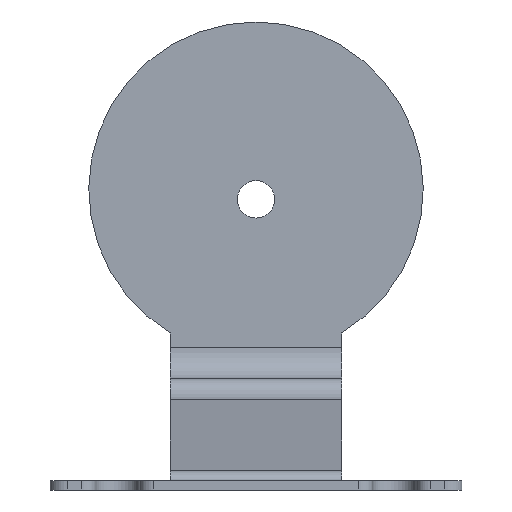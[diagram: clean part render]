
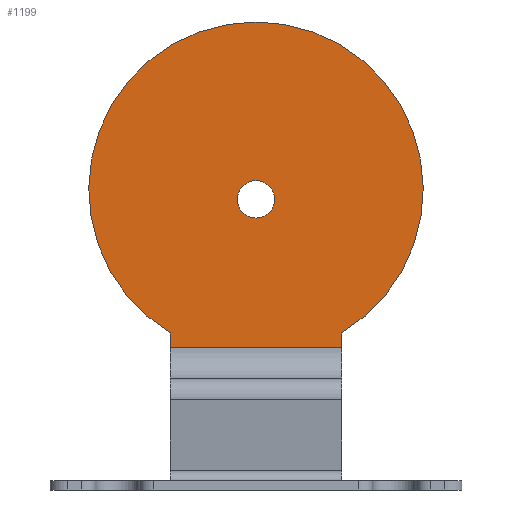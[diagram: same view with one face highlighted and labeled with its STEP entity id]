
A CAD part, front view. The second image highlights one B-rep face of the part: STEP entity #1199.
In plain terms, the highlighted planar face has unit normal (0, -1, 0).
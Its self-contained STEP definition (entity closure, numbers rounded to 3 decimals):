
#42 = ORIENTED_EDGE ( 'NONE', *, *, #787, .T. ) ;
#85 = EDGE_LOOP ( 'NONE', ( #42, #2003, #1810, #2027, #878 ) ) ;
#180 = VERTEX_POINT ( 'NONE', #1169 ) ;
#211 = EDGE_LOOP ( 'NONE', ( #918, #2040 ) ) ;
#228 = EDGE_CURVE ( 'NONE', #2092, #180, #1436, .T. ) ;
#298 = CIRCLE ( 'NONE', #299, 53.75 ) ;
#299 = AXIS2_PLACEMENT_3D ( 'NONE', #300, #304, #305 ) ;
#300 = CARTESIAN_POINT ( 'NONE',  ( 60.5, 62.3, 96.65 ) ) ;
#304 = DIRECTION ( 'NONE',  ( 0., -1., 0. ) ) ;
#305 = DIRECTION ( 'NONE',  ( 0., 0., 1. ) ) ;
#523 = CIRCLE ( 'NONE', #524, 6. ) ;
#524 = AXIS2_PLACEMENT_3D ( 'NONE', #525, #526, #527 ) ;
#525 = CARTESIAN_POINT ( 'NONE',  ( 60.5, 62.3, 93.4 ) ) ;
#526 = DIRECTION ( 'NONE',  ( 0., 1., 0. ) ) ;
#527 = DIRECTION ( 'NONE',  ( 0., 0., 1. ) ) ;
#551 = EDGE_CURVE ( 'NONE', #180, #2092, #523, .T. ) ;
#579 = CARTESIAN_POINT ( 'NONE',  ( 60.5, 62.3, 87.4 ) ) ;
#663 = LINE ( 'NONE', #664, #665 ) ;
#664 = CARTESIAN_POINT ( 'NONE',  ( 88., 62.3, 48. ) ) ;
#665 = VECTOR ( 'NONE', #666, 1000. ) ;
#666 = DIRECTION ( 'NONE',  ( 0., 0., -1. ) ) ;
#686 = LINE ( 'NONE', #687, #688 ) ;
#687 = CARTESIAN_POINT ( 'NONE',  ( 88., 62.3, 45.75 ) ) ;
#688 = VECTOR ( 'NONE', #689, 1000. ) ;
#689 = DIRECTION ( 'NONE',  ( 1., 0., 0. ) ) ;
#690 = CARTESIAN_POINT ( 'NONE',  ( 33., 62.3, 50.468 ) ) ;
#713 = LINE ( 'NONE', #714, #715 ) ;
#714 = CARTESIAN_POINT ( 'NONE',  ( 33., 62.3, 48. ) ) ;
#715 = VECTOR ( 'NONE', #716, 1000. ) ;
#716 = DIRECTION ( 'NONE',  ( 0., 0., -1. ) ) ;
#763 = EDGE_CURVE ( 'NONE', #992, #2044, #686, .T. ) ;
#783 = VERTEX_POINT ( 'NONE', #690 ) ;
#787 = EDGE_CURVE ( 'NONE', #783, #992, #713, .T. ) ;
#851 = CARTESIAN_POINT ( 'NONE',  ( 33., 62.3, 45.75 ) ) ;
#878 = ORIENTED_EDGE ( 'NONE', *, *, #1913, .T. ) ;
#918 = ORIENTED_EDGE ( 'NONE', *, *, #551, .T. ) ;
#967 = FACE_BOUND ( 'NONE', #211, .T. ) ;
#968 = FACE_OUTER_BOUND ( 'NONE', #85, .T. ) ;
#969 = PLANE ( 'NONE',  #970 ) ;
#970 = AXIS2_PLACEMENT_3D ( 'NONE', #971, #975, #976 ) ;
#971 = CARTESIAN_POINT ( 'NONE',  ( 88., 62.3, 48. ) ) ;
#975 = DIRECTION ( 'NONE',  ( 0., 1., 0. ) ) ;
#976 = DIRECTION ( 'NONE',  ( 0., 0., 1. ) ) ;
#992 = VERTEX_POINT ( 'NONE', #851 ) ;
#1169 = CARTESIAN_POINT ( 'NONE',  ( 60.5, 62.3, 99.4 ) ) ;
#1187 = CARTESIAN_POINT ( 'NONE',  ( 88., 62.3, 50.468 ) ) ;
#1199 = ADVANCED_FACE ( 'NONE', ( #967, #968 ), #969, .F. ) ;
#1206 = CARTESIAN_POINT ( 'NONE',  ( 60.5, 62.3, 150.4 ) ) ;
#1302 = CIRCLE ( 'NONE', #1303, 53.75 ) ;
#1303 = AXIS2_PLACEMENT_3D ( 'NONE', #1304, #1305, #1306 ) ;
#1304 = CARTESIAN_POINT ( 'NONE',  ( 60.5, 62.3, 96.65 ) ) ;
#1305 = DIRECTION ( 'NONE',  ( 0., -1., 0. ) ) ;
#1306 = DIRECTION ( 'NONE',  ( 0., 0., 1. ) ) ;
#1436 = CIRCLE ( 'NONE', #1437, 6. ) ;
#1437 = AXIS2_PLACEMENT_3D ( 'NONE', #1438, #1439, #1440 ) ;
#1438 = CARTESIAN_POINT ( 'NONE',  ( 60.5, 62.3, 93.4 ) ) ;
#1439 = DIRECTION ( 'NONE',  ( 0., 1., 0. ) ) ;
#1440 = DIRECTION ( 'NONE',  ( 0., 0., 1. ) ) ;
#1552 = CARTESIAN_POINT ( 'NONE',  ( 88., 62.3, 45.75 ) ) ;
#1633 = VERTEX_POINT ( 'NONE', #1187 ) ;
#1810 = ORIENTED_EDGE ( 'NONE', *, *, #1957, .F. ) ;
#1814 = EDGE_CURVE ( 'NONE', #1633, #2006, #1302, .T. ) ;
#1913 = EDGE_CURVE ( 'NONE', #2006, #783, #298, .T. ) ;
#1957 = EDGE_CURVE ( 'NONE', #1633, #2044, #663, .T. ) ;
#2003 = ORIENTED_EDGE ( 'NONE', *, *, #763, .T. ) ;
#2006 = VERTEX_POINT ( 'NONE', #1206 ) ;
#2027 = ORIENTED_EDGE ( 'NONE', *, *, #1814, .T. ) ;
#2040 = ORIENTED_EDGE ( 'NONE', *, *, #228, .T. ) ;
#2044 = VERTEX_POINT ( 'NONE', #1552 ) ;
#2092 = VERTEX_POINT ( 'NONE', #579 ) ;
